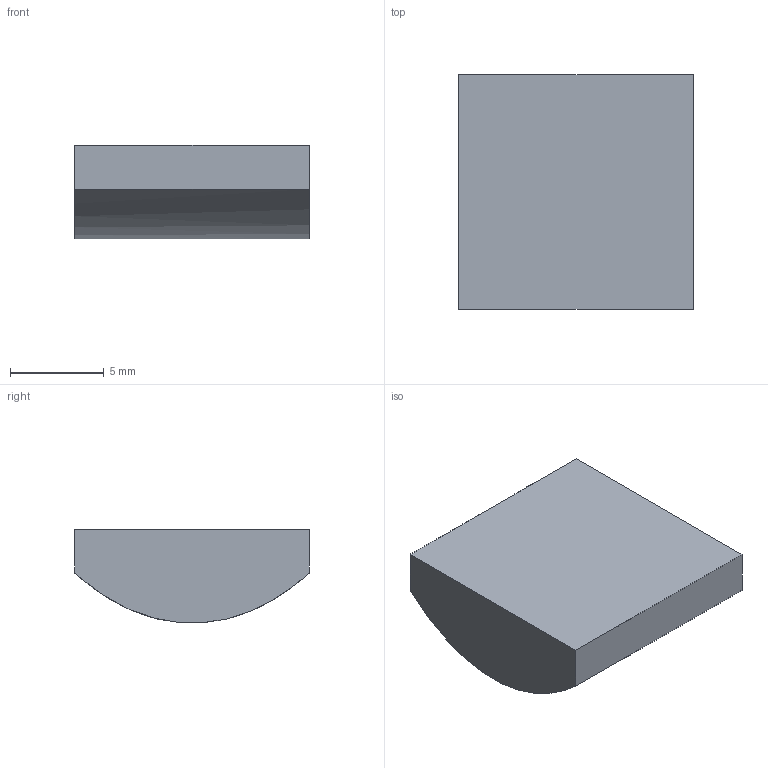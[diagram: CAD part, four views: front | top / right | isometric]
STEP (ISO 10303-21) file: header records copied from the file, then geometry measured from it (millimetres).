
FILE_DESCRIPTION ((), '1');
FILE_NAME ('\\fileserver\Daten\Applikationen\Optikdesign\SPA-Design\aktuelle SPA-Designs\Linsenkataloge - 2016-Juni\Zemax\CHL\CHL12-10.STP', '2016-05-24T14:26:54', ('Unknown'), ('Unknown'), 'HarmonyWare STEP v2.0.1', 'HarmonyWare Translators', '');
FILE_SCHEMA (('CONFIG_CONTROL_DESIGN'));
Length unit declared in the file: millimetre
Products named in the file (1): NONE
Bounding box: 12.5 x 12.5 x 4.98 mm (x, y, z)
Volume: 645.6 mm3; surface area: 491.8 mm2
Topology: 1 solids, 1 shells, 6 faces, 12 edges, 8 vertices
Faces by surface type: plane 3, bspline 3
Entity records: 364 total; most frequent: CARTESIAN_POINT 181, ORIENTED_EDGE 24, B_SPLINE_CURVE_WITH_KNOTS 12, EDGE_CURVE 12, VERTEX_POINT 8, PERSON 8, ORGANIZATION 8, PERSON_AND_ORGANIZATION 8
